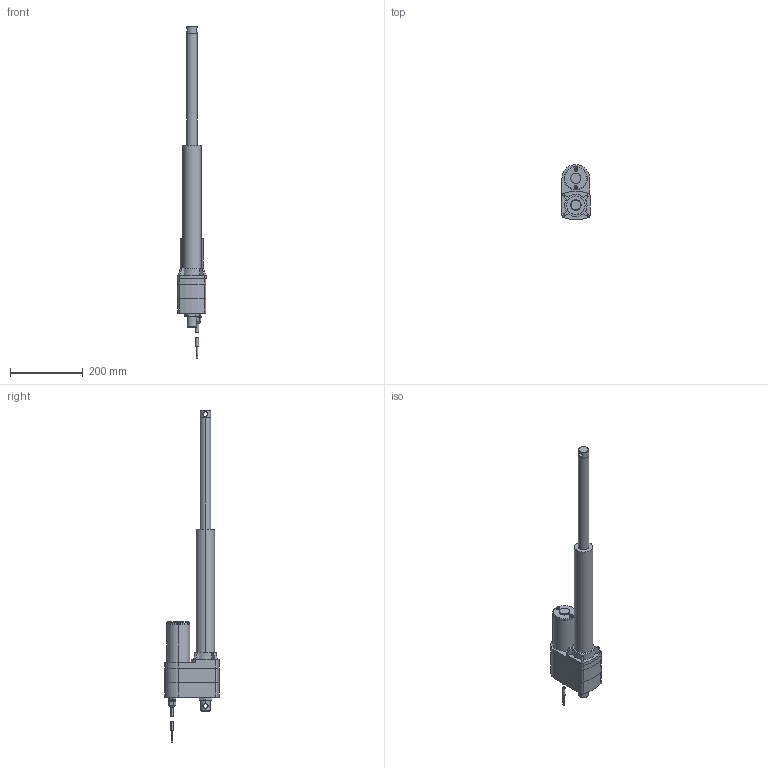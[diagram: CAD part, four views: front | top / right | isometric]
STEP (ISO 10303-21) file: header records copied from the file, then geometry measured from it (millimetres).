
FILE_DESCRIPTION (( 'STEP AP203' ), '1' );
FILE_NAME ('LA5_ACME_12_POT_x.step', '2021-02-24T15:17:30', ( '' ), ( '' ), 'SwSTEP 2.0', 'SolidWorks 2017', '' );
FILE_SCHEMA (( 'CONFIG_CONTROL_DESIGN' ));
Length unit declared in the file: millimetre
Products named in the file (1): LA5_ACME_12_POT_x
Bounding box: 77.22 x 151.29 x 913.34 mm (x, y, z)
Volume: 2416235.4 mm3; surface area: 243586 mm2
Topology: 14 solids, 14 shells, 333 faces, 716 edges, 446 vertices
Faces by surface type: plane 160, cylinder 113, cone 24, bspline 22, torus 10, sphere 4
Entity records: 11050 total; most frequent: CARTESIAN_POINT 3684, DIRECTION 1573, ORIENTED_EDGE 1432, EDGE_CURVE 716, AXIS2_PLACEMENT_3D 615, VERTEX_POINT 446, EDGE_LOOP 376, VECTOR 343
